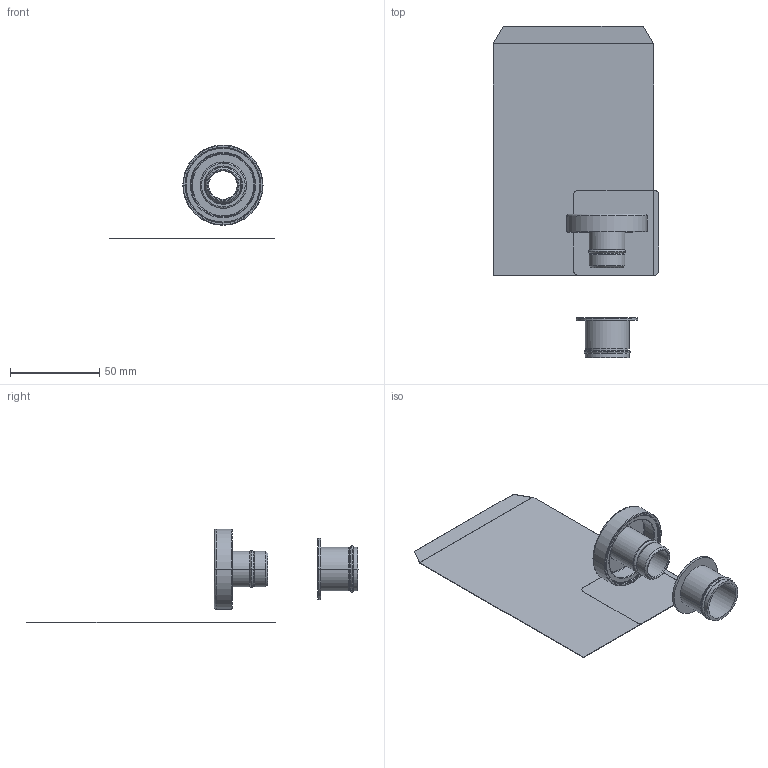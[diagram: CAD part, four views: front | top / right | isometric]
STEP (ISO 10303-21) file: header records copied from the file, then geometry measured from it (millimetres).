
FILE_DESCRIPTION((''),'2;1');
FILE_NAME('48478--00_ASM','2026-10-06T09:34:45',('simi1'),(''),'CREO PARAMETRIC BY PTC INC, 2022244','CREO PARAMETRIC BY PTC INC, 2022244','');
FILE_SCHEMA(('CONFIG_CONTROL_DESIGN'));
Length unit declared in the file: millimetre
Products named in the file (11): 46508--; 4650900; 46510--_ASM; 4738000; 2907700_AF0; 4753000_ASM; 4921800; 7933300; 2032800; 4630500; 48478--00_ASM
Assembly tree (10 placements, depth 3):
  48478--00_ASM
    46510--_ASM
      46508--
      4650900
    4753000_ASM
      4738000
      2907700_AF0
    4921800
    7933300
    2032800
    4630500
Bounding box: 93 x 186.23 x 52.72 mm (x, y, z)
Volume: 16366.9 mm3; surface area: 43441.8 mm2
Topology: 6 solids, 6 shells, 100 faces, 206 edges, 122 vertices
Faces by surface type: torus 28, plane 28, cylinder 28, cone 16
Entity records: 2942 total; most frequent: DIRECTION 584, CARTESIAN_POINT 453, ORIENTED_EDGE 412, AXIS2_PLACEMENT_3D 253, EDGE_CURVE 206, CIRCLE 128, VERTEX_POINT 122, EDGE_LOOP 112
